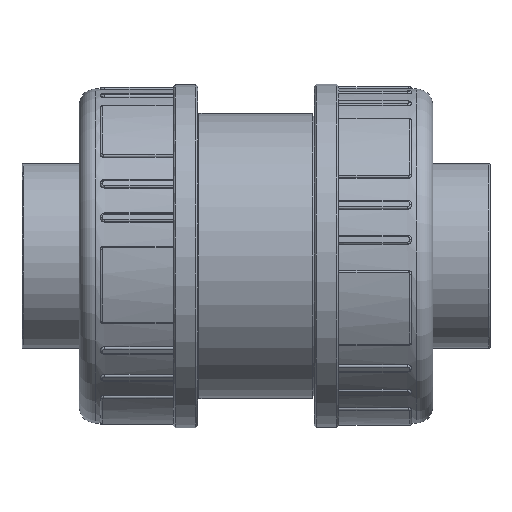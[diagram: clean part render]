
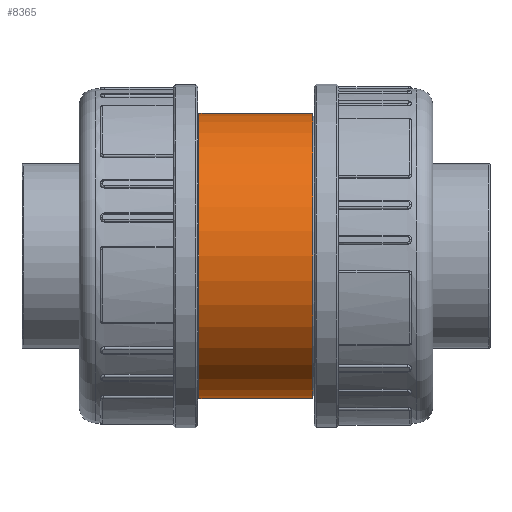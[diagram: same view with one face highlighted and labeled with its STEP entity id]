
A CAD part, left-side view. The second image highlights one B-rep face of the part: STEP entity #8365.
In plain terms, the highlighted cylindrical face has radius 69.75 mm (diameter 139.5 mm), a full revolution.
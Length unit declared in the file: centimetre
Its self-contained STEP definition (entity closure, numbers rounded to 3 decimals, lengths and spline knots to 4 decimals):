
#1342=B_SPLINE_CURVE_WITH_KNOTS('',3,(#39885,#39886,#39887,#39888,#39889,
#39890,#39891,#39892,#39893,#39894,#39895,#39896,#39897,#39898,#39899,#39900,
#39901,#39902,#39903,#39904,#39905,#39906,#39907,#39908,#39909,#39910,#39911,
#39912,#39913,#39914,#39915,#39916,#39917,#39918,#39919,#39920,#39921,#39922,
#39923,#39924,#39925,#39926,#39927,#39928,#39929,#39930,#39931,#39932,#39933,
#39934,#39935,#39936,#39937,#39938,#39939,#39940,#39941,#39942,#39943,#39944,
#39945,#39946,#39947,#39948,#39949,#39950),.UNSPECIFIED.,.T.,.F.,(4,2,2,
2,2,2,2,2,2,2,2,2,2,2,2,2,2,2,2,2,2,2,2,2,2,2,2,2,2,2,2,2,4),(0.,0.4185,
0.837,1.2555,1.674,2.0923,2.5106,
2.929,3.3473,3.7657,4.184,4.6023,
5.0207,5.4392,5.8577,6.2762,6.6946,
7.1131,7.5316,7.9501,8.3686,8.787,
9.2053,9.6236,10.042,10.4603,10.8786,
11.297,11.7153,12.1338,12.5523,12.9708,
13.3893),.UNSPECIFIED.);
#1558=CYLINDRICAL_SURFACE('',#9038,6.975);
#1666=FACE_BOUND('',#2487,.T.);
#1667=FACE_BOUND('',#2488,.T.);
#1975=FACE_OUTER_BOUND('',#2486,.T.);
#2486=EDGE_LOOP('',(#6436));
#2487=EDGE_LOOP('',(#6437));
#2488=EDGE_LOOP('',(#6438));
#2960=CIRCLE('',#9039,6.975);
#2961=CIRCLE('',#9040,6.975);
#3565=VERTEX_POINT('',#39882);
#3566=VERTEX_POINT('',#39884);
#3567=VERTEX_POINT('',#39951);
#4574=EDGE_CURVE('',#3565,#3565,#2960,.T.);
#4575=EDGE_CURVE('',#3566,#3566,#1342,.T.);
#4576=EDGE_CURVE('',#3567,#3567,#2961,.T.);
#6436=ORIENTED_EDGE('',*,*,#4574,.F.);
#6437=ORIENTED_EDGE('',*,*,#4575,.T.);
#6438=ORIENTED_EDGE('',*,*,#4576,.T.);
#8365=ADVANCED_FACE('',(#1975,#1666,#1667),#1558,.T.);
#9038=AXIS2_PLACEMENT_3D('',#39881,#10554,#10555);
#9039=AXIS2_PLACEMENT_3D('',#39883,#10556,#10557);
#9040=AXIS2_PLACEMENT_3D('',#39952,#10558,#10559);
#10554=DIRECTION('center_axis',(0.,-1.,0.));
#10555=DIRECTION('ref_axis',(-1.,0.,0.));
#10556=DIRECTION('center_axis',(0.,-1.,0.));
#10557=DIRECTION('ref_axis',(1.,0.,0.));
#10558=DIRECTION('center_axis',(0.,-1.,0.));
#10559=DIRECTION('ref_axis',(1.,0.,0.));
#39881=CARTESIAN_POINT('Origin',(0.,0.005,
0.));
#39882=CARTESIAN_POINT('',(-6.975,-2.78,0.));
#39883=CARTESIAN_POINT('Origin',(0.,-2.78,0.));
#39884=CARTESIAN_POINT('',(6.6173,0.,-2.205));
#39885=CARTESIAN_POINT('Ctrl Pts',(6.6173,0.,
-2.205));
#39886=CARTESIAN_POINT('Ctrl Pts',(6.6173,-0.1395,
-2.205));
#39887=CARTESIAN_POINT('Ctrl Pts',(6.6218,-0.2834,
-2.1915));
#39888=CARTESIAN_POINT('Ctrl Pts',(6.6402,-0.5691,
-2.1353));
#39889=CARTESIAN_POINT('Ctrl Pts',(6.654,-0.7108,
-2.0925));
#39890=CARTESIAN_POINT('Ctrl Pts',(6.6884,-0.9821,-1.9797));
#39891=CARTESIAN_POINT('Ctrl Pts',(6.709,-1.1119,-1.9096));
#39892=CARTESIAN_POINT('Ctrl Pts',(6.7529,-1.3518,-1.748));
#39893=CARTESIAN_POINT('Ctrl Pts',(6.7762,-1.4618,-1.6565));
#39894=CARTESIAN_POINT('Ctrl Pts',(6.8208,-1.6565,-1.4618));
#39895=CARTESIAN_POINT('Ctrl Pts',(6.8438,-1.748,-1.3518));
#39896=CARTESIAN_POINT('Ctrl Pts',(6.8869,-1.9096,-1.112));
#39897=CARTESIAN_POINT('Ctrl Pts',(6.9069,-1.9796,-0.9821));
#39898=CARTESIAN_POINT('Ctrl Pts',(6.94,-2.0925,-0.7108));
#39899=CARTESIAN_POINT('Ctrl Pts',(6.9532,-2.1353,-0.569));
#39900=CARTESIAN_POINT('Ctrl Pts',(6.9707,-2.1916,-0.2834));
#39901=CARTESIAN_POINT('Ctrl Pts',(6.975,-2.205,-0.1394));
#39902=CARTESIAN_POINT('Ctrl Pts',(6.975,-2.205,0.1394));
#39903=CARTESIAN_POINT('Ctrl Pts',(6.9707,-2.1916,0.2834));
#39904=CARTESIAN_POINT('Ctrl Pts',(6.9532,-2.1353,0.569));
#39905=CARTESIAN_POINT('Ctrl Pts',(6.94,-2.0925,0.7108));
#39906=CARTESIAN_POINT('Ctrl Pts',(6.9069,-1.9796,0.9821));
#39907=CARTESIAN_POINT('Ctrl Pts',(6.8869,-1.9096,1.112));
#39908=CARTESIAN_POINT('Ctrl Pts',(6.8438,-1.748,1.3518));
#39909=CARTESIAN_POINT('Ctrl Pts',(6.8208,-1.6565,1.4618));
#39910=CARTESIAN_POINT('Ctrl Pts',(6.7762,-1.4618,1.6565));
#39911=CARTESIAN_POINT('Ctrl Pts',(6.7529,-1.3518,1.748));
#39912=CARTESIAN_POINT('Ctrl Pts',(6.709,-1.1119,1.9096));
#39913=CARTESIAN_POINT('Ctrl Pts',(6.6884,-0.9821,1.9797));
#39914=CARTESIAN_POINT('Ctrl Pts',(6.654,-0.7108,
2.0925));
#39915=CARTESIAN_POINT('Ctrl Pts',(6.6402,-0.5691,
2.1353));
#39916=CARTESIAN_POINT('Ctrl Pts',(6.6218,-0.2834,
2.1915));
#39917=CARTESIAN_POINT('Ctrl Pts',(6.6173,-0.1395,
2.205));
#39918=CARTESIAN_POINT('Ctrl Pts',(6.6173,0.1395,2.205));
#39919=CARTESIAN_POINT('Ctrl Pts',(6.6218,0.2834,2.1915));
#39920=CARTESIAN_POINT('Ctrl Pts',(6.6402,0.5691,2.1353));
#39921=CARTESIAN_POINT('Ctrl Pts',(6.654,0.7108,2.0925));
#39922=CARTESIAN_POINT('Ctrl Pts',(6.6884,0.9821,1.9797));
#39923=CARTESIAN_POINT('Ctrl Pts',(6.709,1.1119,1.9096));
#39924=CARTESIAN_POINT('Ctrl Pts',(6.7529,1.3518,1.748));
#39925=CARTESIAN_POINT('Ctrl Pts',(6.7762,1.4618,1.6565));
#39926=CARTESIAN_POINT('Ctrl Pts',(6.8208,1.6565,1.4618));
#39927=CARTESIAN_POINT('Ctrl Pts',(6.8438,1.748,1.3518));
#39928=CARTESIAN_POINT('Ctrl Pts',(6.8869,1.9096,1.112));
#39929=CARTESIAN_POINT('Ctrl Pts',(6.9069,1.9796,0.9821));
#39930=CARTESIAN_POINT('Ctrl Pts',(6.94,2.0925,0.7108));
#39931=CARTESIAN_POINT('Ctrl Pts',(6.9532,2.1353,0.569));
#39932=CARTESIAN_POINT('Ctrl Pts',(6.9707,2.1916,0.2834));
#39933=CARTESIAN_POINT('Ctrl Pts',(6.975,2.205,0.1394));
#39934=CARTESIAN_POINT('Ctrl Pts',(6.975,2.205,-0.1394));
#39935=CARTESIAN_POINT('Ctrl Pts',(6.9707,2.1916,-0.2834));
#39936=CARTESIAN_POINT('Ctrl Pts',(6.9532,2.1353,-0.569));
#39937=CARTESIAN_POINT('Ctrl Pts',(6.94,2.0925,-0.7108));
#39938=CARTESIAN_POINT('Ctrl Pts',(6.9069,1.9796,-0.9821));
#39939=CARTESIAN_POINT('Ctrl Pts',(6.8869,1.9096,-1.112));
#39940=CARTESIAN_POINT('Ctrl Pts',(6.8438,1.748,-1.3518));
#39941=CARTESIAN_POINT('Ctrl Pts',(6.8208,1.6565,-1.4618));
#39942=CARTESIAN_POINT('Ctrl Pts',(6.7762,1.4618,-1.6565));
#39943=CARTESIAN_POINT('Ctrl Pts',(6.7529,1.3518,-1.748));
#39944=CARTESIAN_POINT('Ctrl Pts',(6.709,1.1119,-1.9096));
#39945=CARTESIAN_POINT('Ctrl Pts',(6.6884,0.9821,-1.9797));
#39946=CARTESIAN_POINT('Ctrl Pts',(6.654,0.7108,-2.0925));
#39947=CARTESIAN_POINT('Ctrl Pts',(6.6402,0.5691,-2.1353));
#39948=CARTESIAN_POINT('Ctrl Pts',(6.6218,0.2834,-2.1915));
#39949=CARTESIAN_POINT('Ctrl Pts',(6.6173,0.1395,-2.205));
#39950=CARTESIAN_POINT('Ctrl Pts',(6.6173,0.,-2.205));
#39951=CARTESIAN_POINT('',(-6.975,2.79,0.));
#39952=CARTESIAN_POINT('Origin',(0.,2.79,0.));
